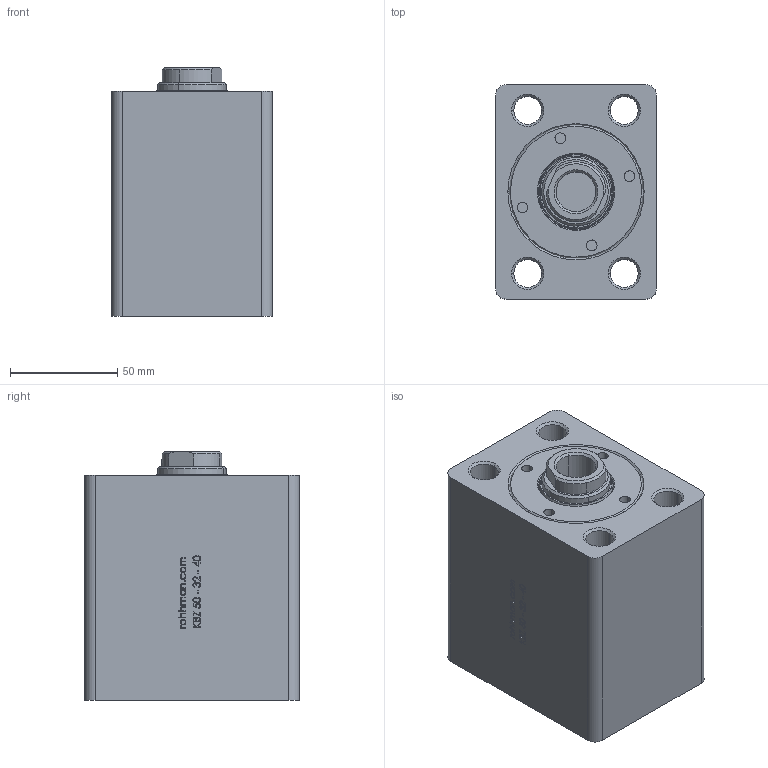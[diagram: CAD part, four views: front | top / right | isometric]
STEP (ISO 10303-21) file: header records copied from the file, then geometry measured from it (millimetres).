
FILE_DESCRIPTION (( 'STEP AP214' ), '1' );
FILE_NAME ('KBZ_02_50_32_40.STEP', '2023-05-19T19:18:33', ( '' ), ( '' ), 'SwSTEP 2.0', 'SolidWorks 2021', '' );
FILE_SCHEMA (( 'AUTOMOTIVE_DESIGN' ));
Length unit declared in the file: millimetre
Products named in the file (9): KBZ_02_50-32_ON_KAPAK; KO-50X2_5; KBZ_02_50_32_ON_KAPAK; 32_36_PAP_32_10; K06-32X40_2X3_8X5; 50-32-25-GOVDE_WEB; K22-32X42X7(K22_32); KBZ_02_50_32_40; 32_25_M尳_WEB
Assembly tree (8 placements, depth 3):
  KBZ_02_50_32_40
    50-32-25-GOVDE_WEB
    32_25_M尳_WEB
    KBZ_02_50_32_ON_KAPAK
      KBZ_02_50-32_ON_KAPAK
      K06-32X40_2X3_8X5
      K22-32X42X7(K22_32)
      32_36_PAP_32_10
      KO-50X2_5
Bounding box: 75 x 100 x 116 mm (x, y, z)
Volume: 616130.5 mm3; surface area: 114966 mm2
Topology: 7 solids, 7 shells, 561 faces, 1345 edges, 856 vertices
Faces by surface type: plane 204, bspline 165, cone 95, cylinder 89, torus 8
Entity records: 24456 total; most frequent: CARTESIAN_POINT 11880, ORIENTED_EDGE 2690, DIRECTION 2107, EDGE_CURVE 1345, VERTEX_POINT 856, LINE 711, VECTOR 711, AXIS2_PLACEMENT_3D 698
